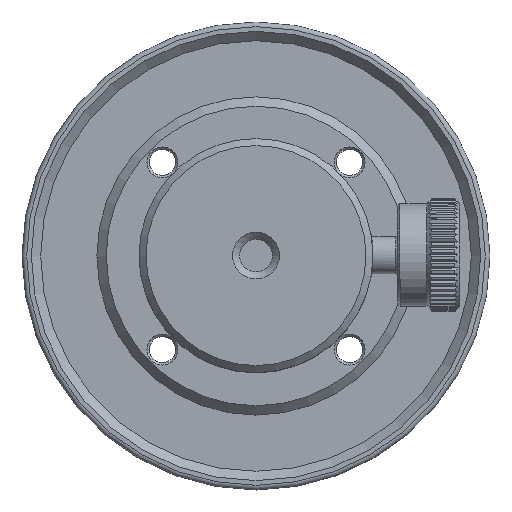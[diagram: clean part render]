
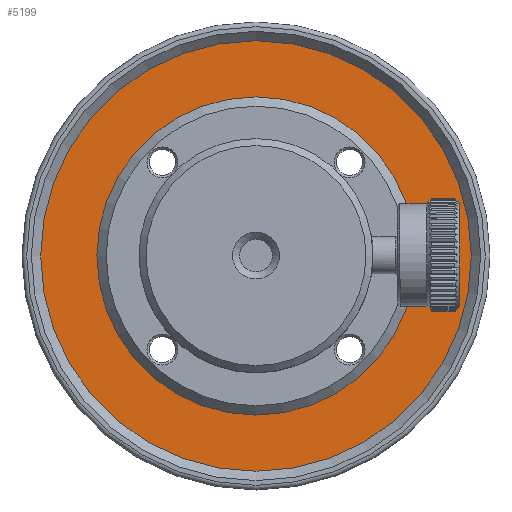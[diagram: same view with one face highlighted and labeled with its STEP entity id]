
A CAD part, top view. The second image highlights one B-rep face of the part: STEP entity #5199.
In plain terms, the highlighted planar face has unit normal (0, 0, 1).
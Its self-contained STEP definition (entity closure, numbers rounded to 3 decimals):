
#4318=CIRCLE('',#15794,46.);
#4322=CIRCLE('',#15802,34.);
#4488=FACE_BOUND('',#6813,.T.);
#4489=FACE_BOUND('',#6814,.T.);
#5199=ADVANCED_FACE('',(#4488,#4489),#5639,.T.);
#5639=PLANE('',#15803);
#6813=EDGE_LOOP('',(#12030));
#6814=EDGE_LOOP('',(#12031));
#12030=ORIENTED_EDGE('',*,*,#14685,.T.);
#12031=ORIENTED_EDGE('',*,*,#14689,.F.);
#13128=VERTEX_POINT('',#22757);
#13132=VERTEX_POINT('',#22769);
#14685=EDGE_CURVE('',#13128,#13128,#4318,.T.);
#14689=EDGE_CURVE('',#13132,#13132,#4322,.T.);
#15794=AXIS2_PLACEMENT_3D('',#22756,#18267,#18268);
#15802=AXIS2_PLACEMENT_3D('',#22768,#18283,#18284);
#15803=AXIS2_PLACEMENT_3D('',#22770,#18285,#18286);
#18267=DIRECTION('',(0.,0.,1.));
#18268=DIRECTION('',(1.,0.,0.));
#18283=DIRECTION('',(0.,0.,1.));
#18284=DIRECTION('',(1.,0.,0.));
#18285=DIRECTION('',(0.,0.,1.));
#18286=DIRECTION('',(1.,0.,0.));
#22756=CARTESIAN_POINT('',(41.736,-0.99,48.));
#22757=CARTESIAN_POINT('',(87.736,-0.99,48.));
#22768=CARTESIAN_POINT('',(41.736,-0.99,48.));
#22769=CARTESIAN_POINT('',(75.736,-0.99,48.));
#22770=CARTESIAN_POINT('',(41.736,-0.99,48.));
